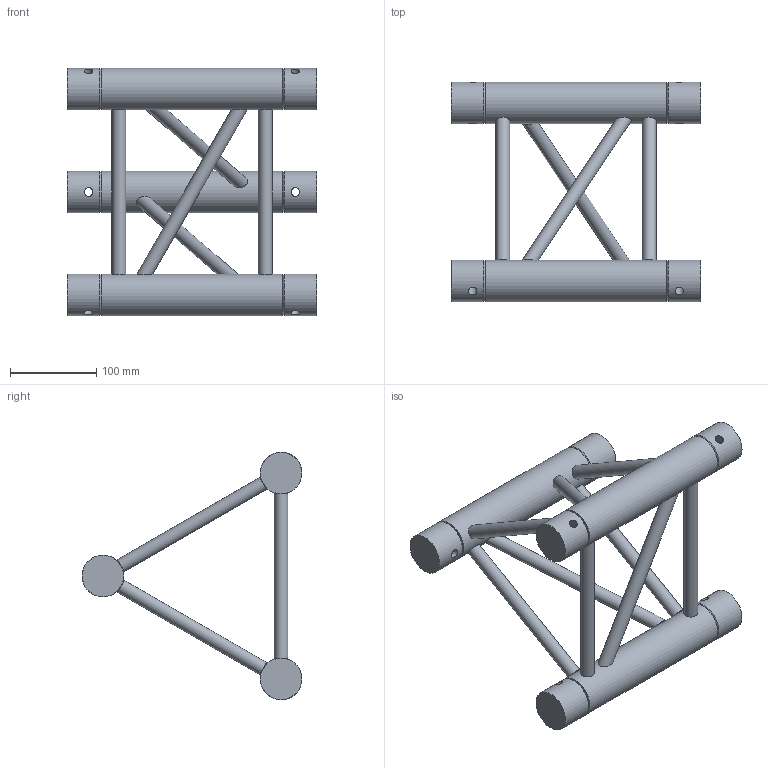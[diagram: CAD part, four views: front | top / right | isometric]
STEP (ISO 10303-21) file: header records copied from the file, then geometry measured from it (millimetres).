
FILE_DESCRIPTION(/* description */ (''),/* implementation_level */ '2;1');
FILE_NAME(/* name */ 'M:\Symbolen\STP\30-er truss\111050003.stp',/* time_stamp */ '2014-12-03T11:50:28+01:00',/* author */ ('Stephan'),/* organization */ (''),/* preprocessor_version */ 'ST-DEVELOPER v15.6',/* originating_system */ 'Autodesk Inventor 2015',/* authorisation */ '');
FILE_SCHEMA (('AUTOMOTIVE_DESIGN { 1 0 10303 214 3 1 1 }'));
Length unit declared in the file: millimetre
Products named in the file (1): 160023769
Bounding box: 290 x 255.28 x 287.3 mm (x, y, z)
Volume: 1472416.5 mm3; surface area: 247983.1 mm2
Topology: 6 solids, 12 shells, 72 faces, 129 edges, 81 vertices
Faces by surface type: plane 42, cylinder 24, cone 6
Full cylindrical faces by diameter (mm): 10 x6, 16 x9, 48.3 x9
Entity records: 2157 total; most frequent: CARTESIAN_POINT 661, DIRECTION 266, ORIENTED_EDGE 204, EDGE_LOOP 132, AXIS2_PLACEMENT_3D 127, EDGE_CURVE 90, VERTEX_POINT 78, STYLED_ITEM 76
